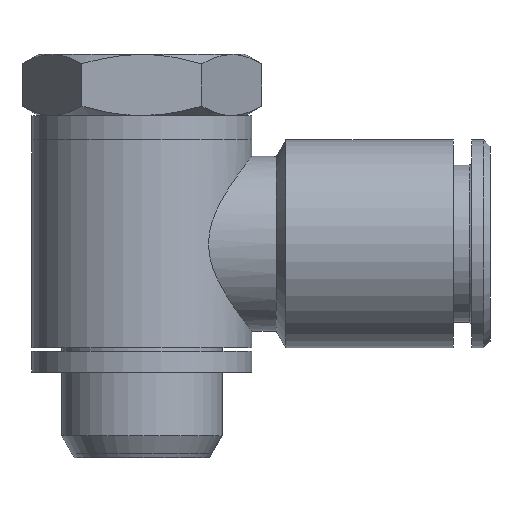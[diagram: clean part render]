
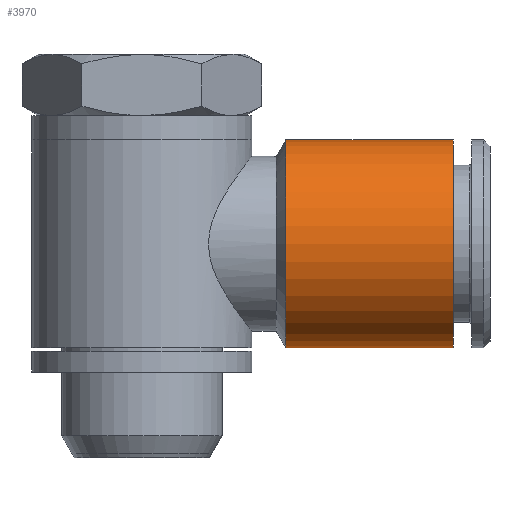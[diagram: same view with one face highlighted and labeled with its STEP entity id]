
A CAD part, front view. The second image highlights one B-rep face of the part: STEP entity #3970.
In plain terms, the highlighted cylindrical face has radius 8.5 mm (diameter 17 mm), a full revolution.
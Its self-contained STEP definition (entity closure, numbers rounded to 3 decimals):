
#3970=ADVANCED_FACE('', (#3980,#3990), #4000, .T.);
#11720=AXIS2_PLACEMENT_3D('Ax2Pl3d', #11730, #11740, #11750);
#12400=AXIS2_PLACEMENT_3D('Ax2Pl3d', #12410, #12420, #12430);
#12440=AXIS2_PLACEMENT_3D('Ax2Pl3d', #12450, #12460, #12470);
#11730=CARTESIAN_POINT('HicPkt', (40.784,15.008,
21.484));
#47100=CARTESIAN_POINT('', (40.784,15.008,12.984));
#12410=CARTESIAN_POINT('HicPkt', (40.784,15.008,
21.484));
#12450=CARTESIAN_POINT('HicPkt', (27.063,15.008,
21.484));
#47190=CARTESIAN_POINT('', (27.063,15.008,12.984));
#48070=CIRCLE('Circle', #11720, 8.5);
#48150=CIRCLE('Circle', #12440, 8.5);
#4000=CYLINDRICAL_SURFACE('Zyl', #12400, 8.5);
#11740=DIRECTION('Axis', (1.,0.,0.));
#11750=DIRECTION('RefDirection', (0.,0.,-1.));
#12420=DIRECTION('Axis', (-1.,0.,
0.));
#12430=DIRECTION('RefDirection', (0.,
0.,-1.));
#12460=DIRECTION('Axis', (1.,0.,0.));
#12470=DIRECTION('RefDirection', (0.,0.,-1.));
#55540=EDGE_CURVE('', #55550, #55550, #48070, .T.);
#55730=EDGE_CURVE('', #55740, #55740, #48150, .T.);
#60390=EDGE_LOOP('Edge_loop', (#60400));
#60410=EDGE_LOOP('Edge_loop', (#60420));
#3990=FACE_BOUND('', #60410, .T.);
#3980=FACE_OUTER_BOUND('Face_outer_bound', #60390, .T.);
#60400=ORIENTED_EDGE('', *, *, #55730, .T.);
#60420=ORIENTED_EDGE('', *, *, #55540, .F.);
#55550=VERTEX_POINT('', #47100);
#55740=VERTEX_POINT('', #47190);
